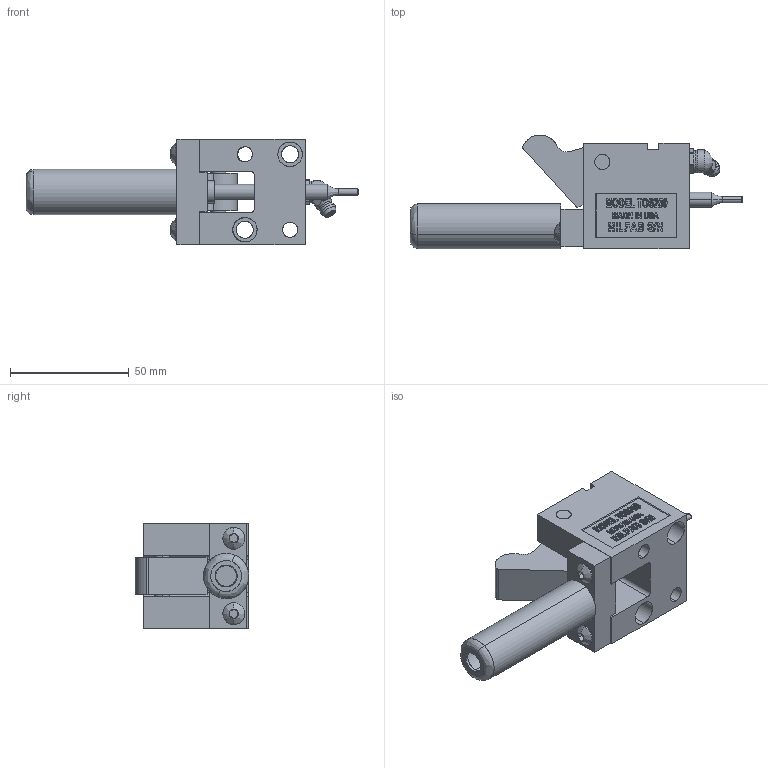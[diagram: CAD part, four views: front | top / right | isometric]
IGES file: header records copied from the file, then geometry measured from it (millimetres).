
Start section: SolidWorks IGES file using analytic representation for surfaces
Global section: file name: Y:\JIM'S INCH CAM UNITS\TOS25045\OPEN\TOS25045-O.IGS; native system: SolidWorks 2006 by SolidWorks Corporation; preprocessor: SolidWorks 2006 by SolidWorks Corporation; author: Jim; date: 090210.171321; units: inch
Bounding box: 139.7 x 47.85 x 44.45 mm (x, y, z)
Surface area: 36186.8 mm2 (no closed solid volume)
Topology: 0 solids, 0 shells, 587 faces, 7212 edges, 7208 vertices
Faces by surface type: bspline 475, revolution 112
